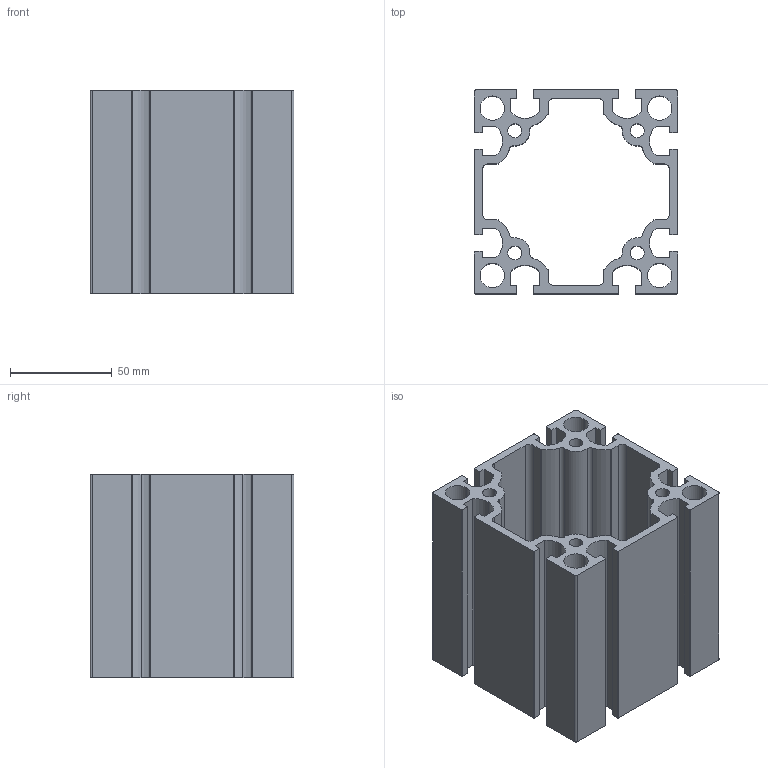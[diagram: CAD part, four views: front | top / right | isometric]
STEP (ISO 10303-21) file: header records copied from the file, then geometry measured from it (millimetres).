
FILE_DESCRIPTION (( 'STEP AP203' ), '1' );
FILE_NAME ('WS100100-8.STEP', '2024-02-19T05:38:17', ( '' ), ( '' ), 'SwSTEP 2.0', 'SolidWorks 2022', '' );
FILE_SCHEMA (( 'CONFIG_CONTROL_DESIGN' ));
Length unit declared in the file: millimetre
Products named in the file (1): WS100100-8
Bounding box: 100 x 100 x 100 mm (x, y, z)
Volume: 262182.2 mm3; surface area: 127945 mm2
Topology: 1 solids, 1 shells, 160 faces, 474 edges, 316 vertices
Faces by surface type: cylinder 86, plane 74
Entity records: 5523 total; most frequent: DIRECTION 968, CARTESIAN_POINT 951, ORIENTED_EDGE 948, EDGE_CURVE 474, AXIS2_PLACEMENT_3D 333, VERTEX_POINT 316, LINE 302, VECTOR 302
